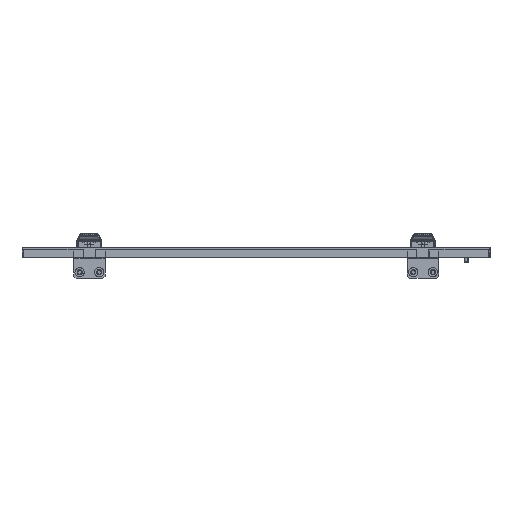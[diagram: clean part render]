
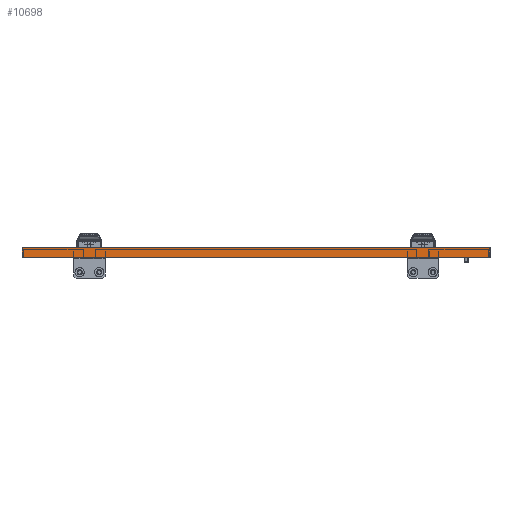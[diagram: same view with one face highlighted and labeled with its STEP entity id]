
A CAD part, left-side view. The second image highlights one B-rep face of the part: STEP entity #10698.
In plain terms, the highlighted planar face has unit normal (-1, 0, 0).
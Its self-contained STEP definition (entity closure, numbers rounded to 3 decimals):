
#6 = LINE ( 'NONE', #16103, #13819 ) ;
#390 = EDGE_CURVE ( 'NONE', #718, #13473, #18658, .T. ) ;
#462 = DIRECTION ( 'NONE',  ( -1., 0., 0. ) ) ;
#718 = VERTEX_POINT ( 'NONE', #8519 ) ;
#934 = AXIS2_PLACEMENT_3D ( 'NONE', #3287, #462, #1832 ) ;
#1286 = ORIENTED_EDGE ( 'NONE', *, *, #390, .T. ) ;
#1832 = DIRECTION ( 'NONE',  ( 0., 0., 1. ) ) ;
#1997 = LINE ( 'NONE', #8385, #15105 ) ;
#2370 = CARTESIAN_POINT ( 'NONE',  ( -524.77, 367.953, 998.163 ) ) ;
#2570 = DIRECTION ( 'NONE',  ( 0., 1., 0. ) ) ;
#3287 = CARTESIAN_POINT ( 'NONE',  ( -524.77, -121.722, 996.163 ) ) ;
#5643 = VERTEX_POINT ( 'NONE', #17415 ) ;
#6187 = ORIENTED_EDGE ( 'NONE', *, *, #19128, .T. ) ;
#6944 = EDGE_CURVE ( 'NONE', #5643, #19598, #1997, .T. ) ;
#7143 = LINE ( 'NONE', #7452, #15469 ) ;
#7452 = CARTESIAN_POINT ( 'NONE',  ( -524.77, -228.047, 1001.001 ) ) ;
#7690 = VECTOR ( 'NONE', #2570, 1000. ) ;
#8000 = FACE_OUTER_BOUND ( 'NONE', #16023, .T. ) ;
#8385 = CARTESIAN_POINT ( 'NONE',  ( -524.77, -121.722, 985.663 ) ) ;
#8519 = CARTESIAN_POINT ( 'NONE',  ( -524.77, -228.047, 998.163 ) ) ;
#8625 = EDGE_CURVE ( 'NONE', #718, #19598, #7143, .T. ) ;
#8925 = DIRECTION ( 'NONE',  ( 0., 0., -1. ) ) ;
#9988 = PLANE ( 'NONE',  #934 ) ;
#10698 = ADVANCED_FACE ( 'NONE', ( #8000 ), #9988, .T. ) ;
#13473 = VERTEX_POINT ( 'NONE', #2370 ) ;
#13819 = VECTOR ( 'NONE', #19243, 1000. ) ;
#14747 = DIRECTION ( 'NONE',  ( 0., -1., 0. ) ) ;
#15105 = VECTOR ( 'NONE', #14747, 1000. ) ;
#15337 = ORIENTED_EDGE ( 'NONE', *, *, #6944, .T. ) ;
#15469 = VECTOR ( 'NONE', #8925, 1000. ) ;
#16023 = EDGE_LOOP ( 'NONE', ( #6187, #15337, #16677, #1286 ) ) ;
#16103 = CARTESIAN_POINT ( 'NONE',  ( -524.77, 367.953, 1001.001 ) ) ;
#16677 = ORIENTED_EDGE ( 'NONE', *, *, #8625, .F. ) ;
#17415 = CARTESIAN_POINT ( 'NONE',  ( -524.77, 367.953, 985.663 ) ) ;
#18658 = LINE ( 'NONE', #20434, #7690 ) ;
#19128 = EDGE_CURVE ( 'NONE', #13473, #5643, #6, .T. ) ;
#19243 = DIRECTION ( 'NONE',  ( 0., 0., -1. ) ) ;
#19598 = VERTEX_POINT ( 'NONE', #20486 ) ;
#20434 = CARTESIAN_POINT ( 'NONE',  ( -524.77, 69.953, 998.163 ) ) ;
#20486 = CARTESIAN_POINT ( 'NONE',  ( -524.77, -228.047, 985.663 ) ) ;
